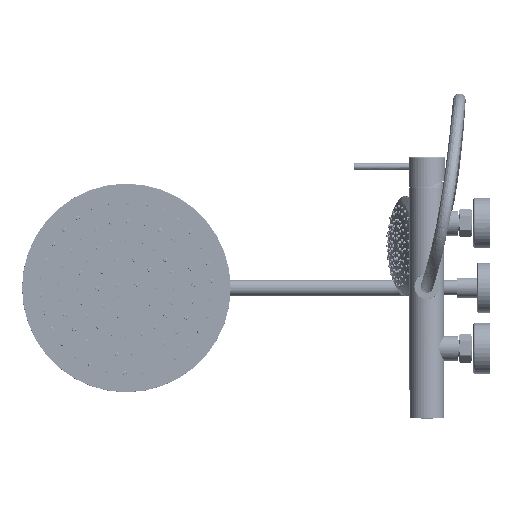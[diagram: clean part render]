
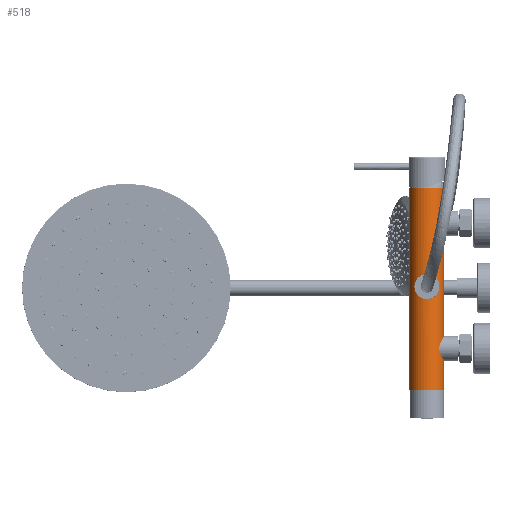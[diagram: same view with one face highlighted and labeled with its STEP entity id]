
A CAD part, top view. The second image highlights one B-rep face of the part: STEP entity #518.
In plain terms, the highlighted cylindrical face has radius 21 mm (diameter 42 mm), a partial arc.
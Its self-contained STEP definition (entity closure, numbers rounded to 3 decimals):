
#14=CARTESIAN_POINT('',(21.,54.5,0.));
#16=DIRECTION('',(0.,-1.,0.));
#17=VECTOR('',#16,241.);
#18=CARTESIAN_POINT('',(-21.,241.5,0.));
#19=LINE('',#18,#17);
#55=CARTESIAN_POINT('',(0.,0.5,0.));
#56=DIRECTION('',(0.,1.,0.));
#57=DIRECTION('',(-1.,0.,0.));
#58=AXIS2_PLACEMENT_3D('',#55,#56,#57);
#70=DIRECTION('',(0.,-1.,0.));
#71=VECTOR('',#70,187.);
#72=CARTESIAN_POINT('',(21.,241.5,0.));
#73=LINE('',#72,#71);
#74=CARTESIAN_POINT('',(21.,54.5,0.));
#75=CARTESIAN_POINT('',(21.,54.5,0.436));
#76=CARTESIAN_POINT('',(20.974,54.379,1.271));
#77=CARTESIAN_POINT('',(20.865,53.842,2.462));
#78=CARTESIAN_POINT('',(20.721,52.989,3.446));
#79=CARTESIAN_POINT('',(20.587,51.887,4.155));
#80=CARTESIAN_POINT('',(20.509,50.642,4.514));
#81=CARTESIAN_POINT('',(20.509,49.362,4.515));
#82=CARTESIAN_POINT('',(20.586,48.13,4.159));
#83=CARTESIAN_POINT('',(20.718,47.031,3.464));
#84=CARTESIAN_POINT('',(20.863,46.169,2.48));
#85=CARTESIAN_POINT('',(20.973,45.622,1.279));
#86=CARTESIAN_POINT('',(21.,45.5,0.438));
#87=CARTESIAN_POINT('',(21.,45.5,0.));
#89=DIRECTION('',(0.,-1.,0.));
#90=VECTOR('',#89,45.);
#91=CARTESIAN_POINT('',(21.,45.5,0.));
#92=LINE('',#91,#90);
#93=CARTESIAN_POINT('',(0.,128.5,21.));
#94=CARTESIAN_POINT('',(-0.43,128.5,21.));
#95=CARTESIAN_POINT('',(-1.259,128.383,20.975));
#96=CARTESIAN_POINT('',(-2.478,127.835,20.863));
#97=CARTESIAN_POINT('',(-3.444,126.986,20.721));
#98=CARTESIAN_POINT('',(-4.151,125.898,20.588));
#99=CARTESIAN_POINT('',(-4.517,124.634,20.509));
#100=CARTESIAN_POINT('',(-4.513,123.346,20.509));
#101=CARTESIAN_POINT('',(-4.151,122.111,20.588));
#102=CARTESIAN_POINT('',(-3.46,121.031,20.719));
#103=CARTESIAN_POINT('',(-2.478,120.164,20.864));
#104=CARTESIAN_POINT('',(-1.258,119.617,20.975));
#105=CARTESIAN_POINT('',(-0.429,119.5,21.));
#106=CARTESIAN_POINT('',(0.,119.5,21.));
#108=CARTESIAN_POINT('',(0.,119.5,21.));
#109=CARTESIAN_POINT('',(0.438,119.5,21.));
#110=CARTESIAN_POINT('',(1.278,119.622,20.973));
#111=CARTESIAN_POINT('',(2.482,120.17,20.863));
#112=CARTESIAN_POINT('',(3.457,121.025,20.719));
#113=CARTESIAN_POINT('',(4.158,122.124,20.587));
#114=CARTESIAN_POINT('',(4.511,123.348,20.51));
#115=CARTESIAN_POINT('',(4.517,124.641,20.509));
#116=CARTESIAN_POINT('',(4.159,125.869,20.586));
#117=CARTESIAN_POINT('',(3.473,126.955,20.716));
#118=CARTESIAN_POINT('',(2.493,127.827,20.862));
#119=CARTESIAN_POINT('',(1.254,128.386,20.975));
#120=CARTESIAN_POINT('',(0.427,128.5,21.));
#121=CARTESIAN_POINT('',(0.,128.5,21.));
#123=CARTESIAN_POINT('',(19.799,202.5,7.));
#124=CARTESIAN_POINT('',(19.655,202.5,7.407));
#125=CARTESIAN_POINT('',(19.348,202.397,8.201));
#126=CARTESIAN_POINT('',(18.79,201.879,9.405));
#127=CARTESIAN_POINT('',(18.256,201.042,10.393));
#128=CARTESIAN_POINT('',(17.851,200.045,11.066));
#129=CARTESIAN_POINT('',(17.606,198.943,11.448));
#130=CARTESIAN_POINT('',(17.546,197.865,11.538));
#131=CARTESIAN_POINT('',(17.643,196.839,11.391));
#132=CARTESIAN_POINT('',(17.903,195.807,10.982));
#133=CARTESIAN_POINT('',(18.293,194.897,10.327));
#134=CARTESIAN_POINT('',(18.8,194.113,9.383));
#135=CARTESIAN_POINT('',(19.341,193.609,8.215));
#136=CARTESIAN_POINT('',(19.652,193.5,7.415));
#137=CARTESIAN_POINT('',(19.799,193.5,7.));
#139=CARTESIAN_POINT('',(19.799,193.5,7.));
#140=CARTESIAN_POINT('',(19.959,193.5,6.547));
#141=CARTESIAN_POINT('',(20.23,193.633,5.684));
#142=CARTESIAN_POINT('',(20.522,194.183,4.502));
#143=CARTESIAN_POINT('',(20.706,195.037,3.533));
#144=CARTESIAN_POINT('',(20.809,196.128,2.841));
#145=CARTESIAN_POINT('',(20.853,197.371,2.483));
#146=CARTESIAN_POINT('',(20.852,198.663,2.487));
#147=CARTESIAN_POINT('',(20.807,199.907,2.857));
#148=CARTESIAN_POINT('',(20.702,200.988,3.556));
#149=CARTESIAN_POINT('',(20.518,201.826,4.518));
#150=CARTESIAN_POINT('',(20.229,202.367,5.687));
#151=CARTESIAN_POINT('',(19.959,202.5,6.548));
#152=CARTESIAN_POINT('',(19.799,202.5,7.));
#159=CARTESIAN_POINT('',(0.,241.5,0.));
#160=DIRECTION('',(0.,-1.,0.));
#161=DIRECTION('',(1.,0.,0.));
#162=AXIS2_PLACEMENT_3D('',#159,#160,#161);
#396=CARTESIAN_POINT('',(21.,0.5,0.));
#397=CARTESIAN_POINT('',(-21.,0.5,0.));
#398=VERTEX_POINT('',#396);
#399=VERTEX_POINT('',#397);
#400=CARTESIAN_POINT('',(21.,45.5,0.));
#401=VERTEX_POINT('',#400);
#402=VERTEX_POINT('',#14);
#403=CARTESIAN_POINT('',(21.,241.5,0.));
#404=VERTEX_POINT('',#403);
#405=CARTESIAN_POINT('',(-21.,241.5,0.));
#406=VERTEX_POINT('',#405);
#412=VERTEX_POINT('',#93);
#413=VERTEX_POINT('',#106);
#427=VERTEX_POINT('',#123);
#428=VERTEX_POINT('',#137);
#491=CARTESIAN_POINT('',(0.,-12.1,0.));
#492=DIRECTION('',(0.,1.,0.));
#493=DIRECTION('',(1.,0.,0.));
#494=AXIS2_PLACEMENT_3D('',#491,#492,#493);
#495=CYLINDRICAL_SURFACE('',#494,21.);
#496=ORIENTED_EDGE('',*,*,#480,.F.);
#497=ORIENTED_EDGE('',*,*,#463,.F.);
#499=ORIENTED_EDGE('',*,*,#498,.F.);
#500=ORIENTED_EDGE('',*,*,#459,.T.);
#502=ORIENTED_EDGE('',*,*,#501,.T.);
#503=ORIENTED_EDGE('',*,*,#455,.T.);
#504=EDGE_LOOP('',(#496,#497,#499,#500,#502,#503));
#505=FACE_OUTER_BOUND('',#504,.F.);
#507=ORIENTED_EDGE('',*,*,#506,.T.);
#509=ORIENTED_EDGE('',*,*,#508,.T.);
#510=EDGE_LOOP('',(#507,#509));
#511=FACE_BOUND('',#510,.F.);
#513=ORIENTED_EDGE('',*,*,#512,.T.);
#515=ORIENTED_EDGE('',*,*,#514,.T.);
#516=EDGE_LOOP('',(#513,#515));
#517=FACE_BOUND('',#516,.F.);
#59=CIRCLE('',#58,21.);
#88=B_SPLINE_CURVE_WITH_KNOTS('',3,(#74,#75,#76,#77,#78,#79,#80,#81,#82,#83,#84,
#85,#86,#87),.UNSPECIFIED.,.F.,.F.,(4,1,1,1,1,1,1,1,1,1,1,4),(0.,
0.091,0.182,0.273,0.364,
0.455,0.545,0.636,0.727,
0.818,0.909,1.),.UNSPECIFIED.);
#107=B_SPLINE_CURVE_WITH_KNOTS('',3,(#93,#94,#95,#96,#97,#98,#99,#100,#101,#102,
#103,#104,#105,#106),.UNSPECIFIED.,.F.,.F.,(4,1,1,1,1,1,1,1,1,1,1,4),(0.,
0.091,0.182,0.273,0.364,
0.455,0.545,0.636,0.727,
0.818,0.909,1.),.UNSPECIFIED.);
#122=B_SPLINE_CURVE_WITH_KNOTS('',3,(#108,#109,#110,#111,#112,#113,#114,#115,
#116,#117,#118,#119,#120,#121),.UNSPECIFIED.,.F.,.F.,(4,1,1,1,1,1,1,1,1,1,1,4),(
0.,0.091,0.182,0.273,0.364,
0.455,0.545,0.636,0.727,
0.818,0.909,1.),.UNSPECIFIED.);
#138=B_SPLINE_CURVE_WITH_KNOTS('',3,(#123,#124,#125,#126,#127,#128,#129,#130,
#131,#132,#133,#134,#135,#136,#137),.UNSPECIFIED.,.F.,.F.,(4,1,1,1,1,1,1,1,1,1,
1,1,4),(0.,0.083,0.167,0.25,0.333,
0.417,0.5,0.583,0.667,0.75,
0.833,0.917,1.),.UNSPECIFIED.);
#153=B_SPLINE_CURVE_WITH_KNOTS('',3,(#139,#140,#141,#142,#143,#144,#145,#146,
#147,#148,#149,#150,#151,#152),.UNSPECIFIED.,.F.,.F.,(4,1,1,1,1,1,1,1,1,1,1,4),(
0.,0.091,0.182,0.273,0.364,
0.455,0.545,0.636,0.727,
0.818,0.909,1.),.UNSPECIFIED.);
#163=CIRCLE('',#162,21.);
#455=EDGE_CURVE('',#401,#398,#92,.T.);
#459=EDGE_CURVE('',#404,#402,#73,.T.);
#463=EDGE_CURVE('',#406,#399,#19,.T.);
#480=EDGE_CURVE('',#399,#398,#59,.T.);
#498=EDGE_CURVE('',#404,#406,#163,.T.);
#501=EDGE_CURVE('',#402,#401,#88,.T.);
#506=EDGE_CURVE('',#412,#413,#107,.T.);
#508=EDGE_CURVE('',#413,#412,#122,.T.);
#512=EDGE_CURVE('',#427,#428,#138,.T.);
#514=EDGE_CURVE('',#428,#427,#153,.T.);
#518=ADVANCED_FACE('',(#505,#511,#517),#495,.T.);
